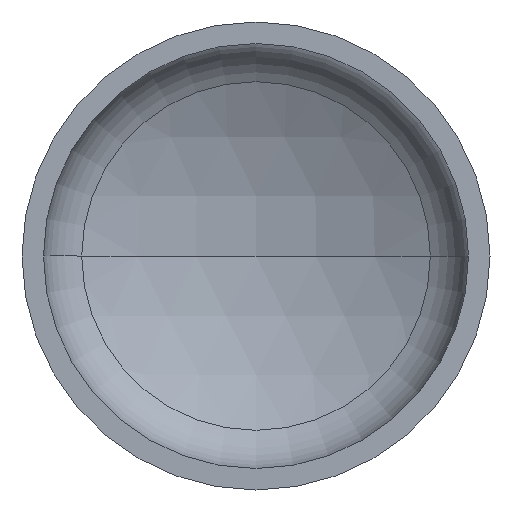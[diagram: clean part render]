
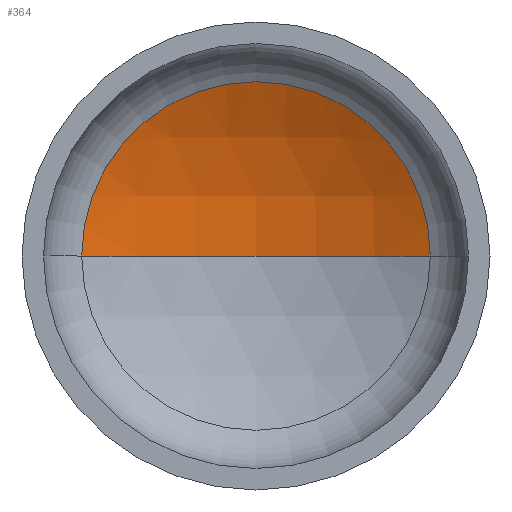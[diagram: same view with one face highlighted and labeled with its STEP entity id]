
A CAD part, front view. The second image highlights one B-rep face of the part: STEP entity #364.
In plain terms, the highlighted spherical face has radius 1360 mm.
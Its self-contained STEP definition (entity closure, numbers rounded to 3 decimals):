
#5 = AXIS2_PLACEMENT_3D ( 'NONE', #144, #229, #232 ) ;
#8 = AXIS2_PLACEMENT_3D ( 'NONE', #225, #124, #380 ) ;
#16 = AXIS2_PLACEMENT_3D ( 'NONE', #167, #336, #339 ) ;
#18 = AXIS2_PLACEMENT_3D ( 'NONE', #163, #166, #201 ) ;
#31 = EDGE_LOOP ( 'NONE', ( #149, #69, #128 ) ) ;
#32 = VERTEX_POINT ( 'NONE', #284 ) ;
#69 = ORIENTED_EDGE ( 'NONE', *, *, #350, .T. ) ;
#74 = VERTEX_POINT ( 'NONE', #328 ) ;
#93 = CIRCLE ( 'NONE', #18, 633.018 ) ;
#124 = DIRECTION ( 'NONE',  ( 0., 0., 1. ) ) ;
#128 = ORIENTED_EDGE ( 'NONE', *, *, #349, .T. ) ;
#144 = CARTESIAN_POINT ( 'NONE',  ( 0., -853.579, 0. ) ) ;
#149 = ORIENTED_EDGE ( 'NONE', *, *, #357, .F. ) ;
#163 = CARTESIAN_POINT ( 'NONE',  ( 0., 350.119, 0. ) ) ;
#166 = DIRECTION ( 'NONE',  ( 0., -1., 0. ) ) ;
#167 = CARTESIAN_POINT ( 'NONE',  ( 0., -853.579, 0. ) ) ;
#180 = CARTESIAN_POINT ( 'NONE',  ( 633.018, 350.119, 0. ) ) ;
#190 = FACE_OUTER_BOUND ( 'NONE', #31, .T. ) ;
#201 = DIRECTION ( 'NONE',  ( 1., 0., 0. ) ) ;
#225 = CARTESIAN_POINT ( 'NONE',  ( 0., -853.579, 0. ) ) ;
#229 = DIRECTION ( 'NONE',  ( 0., 0., -1. ) ) ;
#232 = DIRECTION ( 'NONE',  ( -1., 0., 0. ) ) ;
#263 = CIRCLE ( 'NONE', #8, 1360. ) ;
#282 = CIRCLE ( 'NONE', #16, 1360. ) ;
#284 = CARTESIAN_POINT ( 'NONE',  ( -633.018, 350.119, 0. ) ) ;
#311 = VERTEX_POINT ( 'NONE', #180 ) ;
#328 = CARTESIAN_POINT ( 'NONE',  ( 0., 506.421, 0. ) ) ;
#336 = DIRECTION ( 'NONE',  ( 0., 0., -1. ) ) ;
#339 = DIRECTION ( 'NONE',  ( -1., 0., 0. ) ) ;
#349 = EDGE_CURVE ( 'NONE', #311, #32, #93, .T. ) ;
#350 = EDGE_CURVE ( 'NONE', #74, #311, #282, .T. ) ;
#357 = EDGE_CURVE ( 'NONE', #74, #32, #263, .T. ) ;
#364 = ADVANCED_FACE ( 'NONE', ( #190 ), #374, .F. ) ;
#374 = SPHERICAL_SURFACE ( 'NONE', #5, 1360. ) ;
#380 = DIRECTION ( 'NONE',  ( 1., 0., 0. ) ) ;
